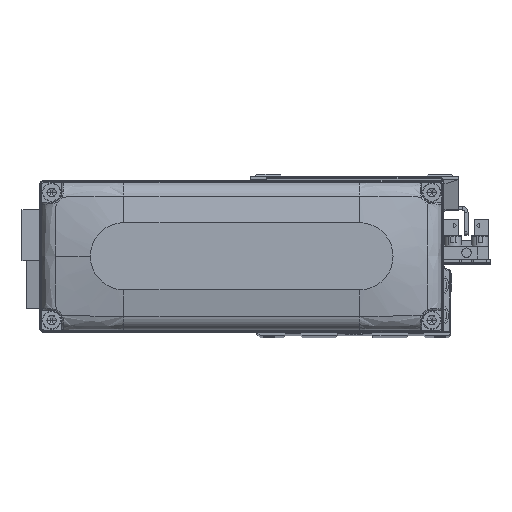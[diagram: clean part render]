
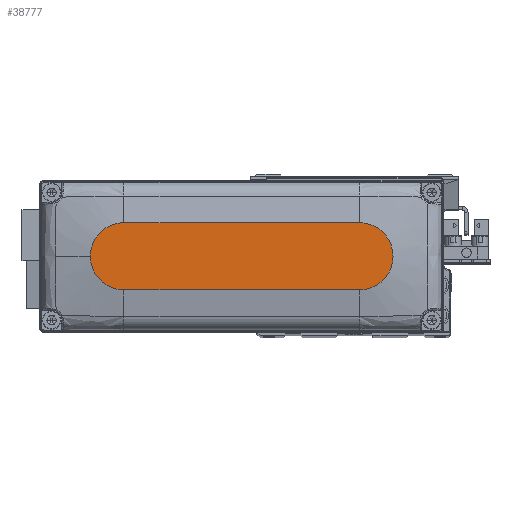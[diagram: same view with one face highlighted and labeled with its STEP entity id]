
A CAD part, top view. The second image highlights one B-rep face of the part: STEP entity #38777.
In plain terms, the highlighted planar face has unit normal (0, 0, 1).
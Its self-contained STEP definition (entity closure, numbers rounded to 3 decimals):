
#1265 = AXIS2_PLACEMENT_3D ( 'NONE', #15354, #28169, #40967 ) ;
#2752 = DIRECTION ( 'NONE',  ( 0., 0., 1. ) ) ;
#2797 = DIRECTION ( 'NONE',  ( 1., 0., 0. ) ) ;
#2898 = CARTESIAN_POINT ( 'NONE',  ( 35., 0., 28. ) ) ;
#4561 = ORIENTED_EDGE ( 'NONE', *, *, #22547, .T. ) ;
#5956 = PLANE ( 'NONE',  #10295 ) ;
#6114 = CIRCLE ( 'NONE', #29576, 10. ) ;
#7052 = ORIENTED_EDGE ( 'NONE', *, *, #28517, .T. ) ;
#7119 = VECTOR ( 'NONE', #34078, 1000. ) ;
#8472 = LINE ( 'NONE', #21282, #7119 ) ;
#9566 = CARTESIAN_POINT ( 'NONE',  ( 35., -10., 28. ) ) ;
#10295 = AXIS2_PLACEMENT_3D ( 'NONE', #18754, #31560, #2797 ) ;
#13151 = VERTEX_POINT ( 'NONE', #36854 ) ;
#13264 = CARTESIAN_POINT ( 'NONE',  ( 35., 10., 28. ) ) ;
#13424 = LINE ( 'NONE', #26230, #38502 ) ;
#13855 = VERTEX_POINT ( 'NONE', #38447 ) ;
#15354 = CARTESIAN_POINT ( 'NONE',  ( 35., 0., 28. ) ) ;
#15550 = DIRECTION ( 'NONE',  ( 1., 0., 0. ) ) ;
#15695 = DIRECTION ( 'NONE',  ( 0., 0., 1. ) ) ;
#15795 = AXIS2_PLACEMENT_3D ( 'NONE', #31518, #2752, #15550 ) ;
#16041 = EDGE_LOOP ( 'NONE', ( #4561, #39411, #36046, #7052, #17404 ) ) ;
#17404 = ORIENTED_EDGE ( 'NONE', *, *, #19491, .T. ) ;
#18754 = CARTESIAN_POINT ( 'NONE',  ( 0., 0., 28. ) ) ;
#19361 = CIRCLE ( 'NONE', #1265, 10. ) ;
#19491 = EDGE_CURVE ( 'NONE', #33658, #33475, #6114, .T. ) ;
#21282 = CARTESIAN_POINT ( 'NONE',  ( -35., -10., 28. ) ) ;
#22547 = EDGE_CURVE ( 'NONE', #33475, #13855, #13424, .T. ) ;
#24195 = EDGE_CURVE ( 'NONE', #13855, #13151, #33910, .T. ) ;
#26230 = CARTESIAN_POINT ( 'NONE',  ( -35., 10., 28. ) ) ;
#28169 = DIRECTION ( 'NONE',  ( 0., 0., 1. ) ) ;
#28517 = EDGE_CURVE ( 'NONE', #38375, #33658, #19361, .T. ) ;
#28518 = DIRECTION ( 'NONE',  ( 1., 0., 0. ) ) ;
#29576 = AXIS2_PLACEMENT_3D ( 'NONE', #2898, #15695, #28518 ) ;
#31518 = CARTESIAN_POINT ( 'NONE',  ( -35., 0., 28. ) ) ;
#31560 = DIRECTION ( 'NONE',  ( 0., 0., 1. ) ) ;
#33475 = VERTEX_POINT ( 'NONE', #13264 ) ;
#33658 = VERTEX_POINT ( 'NONE', #36979 ) ;
#33910 = CIRCLE ( 'NONE', #15795, 10. ) ;
#34078 = DIRECTION ( 'NONE',  ( 1., 0., 0. ) ) ;
#34459 = EDGE_CURVE ( 'NONE', #13151, #38375, #8472, .T. ) ;
#34707 = FACE_OUTER_BOUND ( 'NONE', #16041, .T. ) ;
#36046 = ORIENTED_EDGE ( 'NONE', *, *, #34459, .T. ) ;
#36854 = CARTESIAN_POINT ( 'NONE',  ( -35., -10., 28. ) ) ;
#36979 = CARTESIAN_POINT ( 'NONE',  ( 45., 0., 28. ) ) ;
#38375 = VERTEX_POINT ( 'NONE', #9566 ) ;
#38447 = CARTESIAN_POINT ( 'NONE',  ( -35., 10., 28. ) ) ;
#38502 = VECTOR ( 'NONE', #39039, 1000. ) ;
#38777 = ADVANCED_FACE ( 'NONE', ( #34707 ), #5956, .T. ) ;
#39039 = DIRECTION ( 'NONE',  ( -1., 0., 0. ) ) ;
#39411 = ORIENTED_EDGE ( 'NONE', *, *, #24195, .T. ) ;
#40967 = DIRECTION ( 'NONE',  ( 1., 0., 0. ) ) ;
